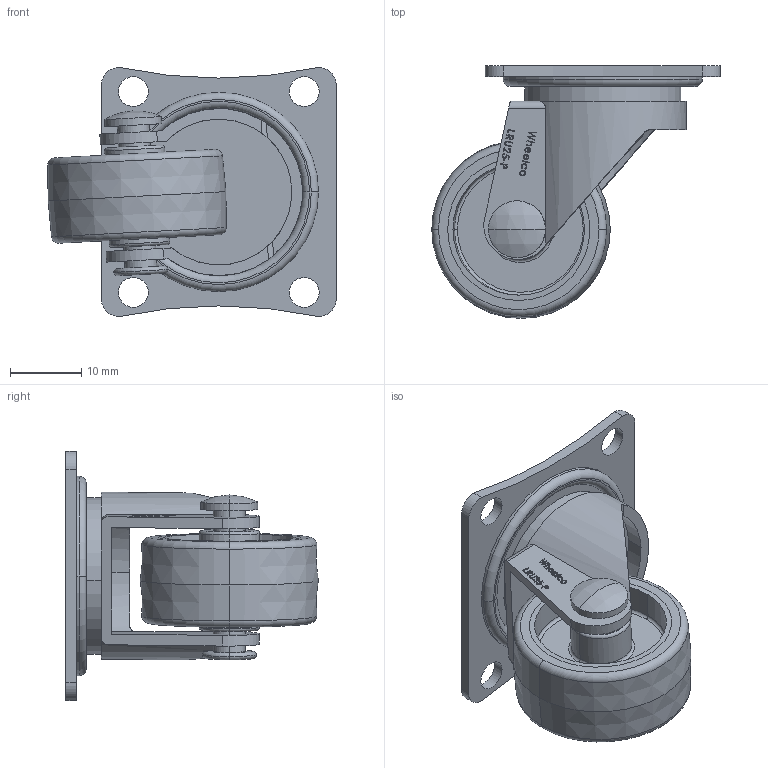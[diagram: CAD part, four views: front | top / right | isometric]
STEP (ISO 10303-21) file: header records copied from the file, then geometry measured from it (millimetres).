
FILE_DESCRIPTION (( 'STEP AP214' ), '1' );
FILE_NAME ('LRU25-P.step', '2024-01-15T01:44:26', ( '' ), ( '' ), 'SwSTEP 2.0', 'SolidWorks 2022', '' );
FILE_SCHEMA (( 'AUTOMOTIVE_DESIGN' ));
Length unit declared in the file: millimetre
Products named in the file (5): LRU25; LRU BOLT; LRU25-P; LRU25-P PLATE
Assembly tree (4 placements, depth 2):
  LRU25-P
    LRU25-P
    LRU25-P PLATE
    LRU BOLT
    LRU25
Bounding box: 40.52 x 35.47 x 35 mm (x, y, z)
Volume: 8475.5 mm3; surface area: 8466.5 mm2
Topology: 4 solids, 5 shells, 297 faces, 740 edges, 485 vertices
Faces by surface type: plane 131, bspline 78, cylinder 54, torus 28, cone 4, sphere 2
Entity records: 13502 total; most frequent: CARTESIAN_POINT 6159, ORIENTED_EDGE 1480, DIRECTION 1194, EDGE_CURVE 740, VERTEX_POINT 485, LINE 402, VECTOR 402, AXIS2_PLACEMENT_3D 396
